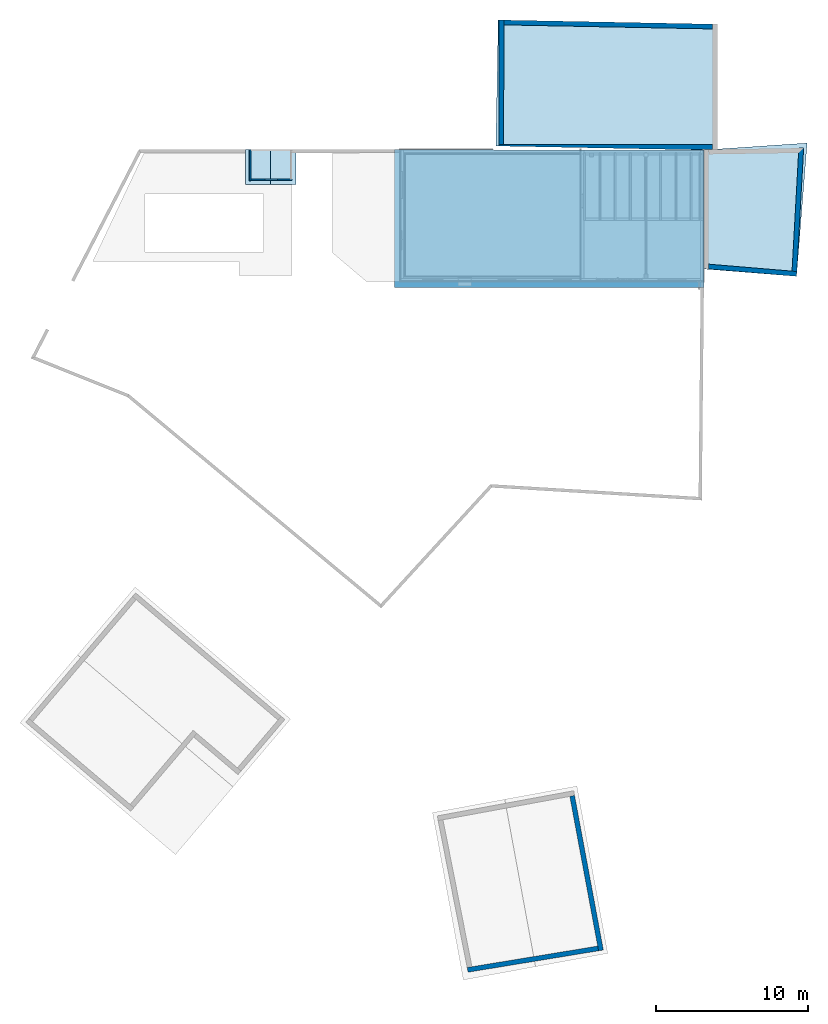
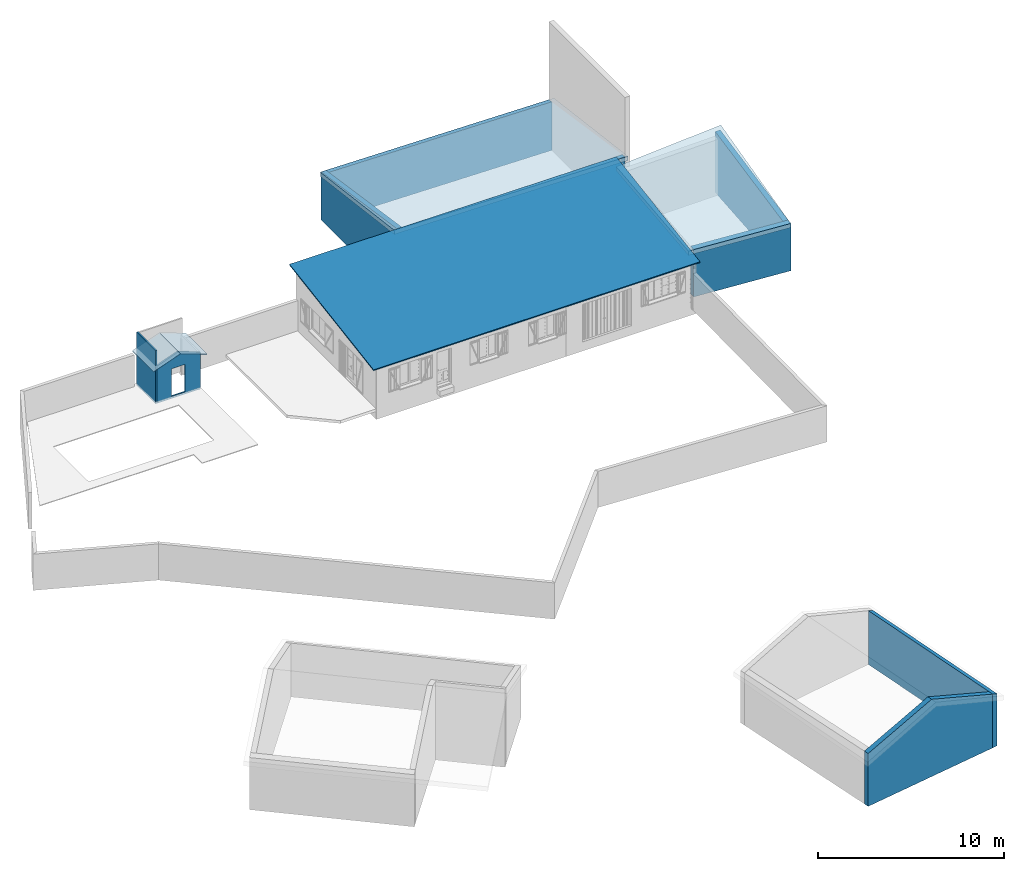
# One storey, part 2 of 12: 9 walls, 3 building element parts, 3 roofs, 1 opening, 1 element without a shape of its own.
"""IFC2X3 building model written with IfcOpenShell, lengths in metres."""

from ifc_helpers import new_model, entity, si_unit, converted_unit, derived_unit, money_unit, direction, frame, origin_with_axes, origin_2d_with_axis, place, context, subcontext, project, spatial, polyline, rectangle, outline, extrude, boolean, faceted_brep, material, type_object, element, aggregate, save


model = new_model("IFC2X3")

# Units and contexts
model_context = context("Model", 3, precision=1e-05, world=origin_with_axes(), true_north=direction((0.0, 1.0)))
body_context = subcontext(model_context, "Body", "Model", "MODEL_VIEW")
ifc_project = project(units=[si_unit("LENGTHUNIT", "METRE"), si_unit("AREAUNIT", "SQUARE_METRE"), si_unit("VOLUMEUNIT", "CUBIC_METRE"), converted_unit("PLANEANGLEUNIT", "DEGREE", entity("IfcPlaneAngleMeasure", 0.0174532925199), si_unit("PLANEANGLEUNIT", "RADIAN"), dimensions=[0, 0, 0, 0, 0, 0, 0]), si_unit("SOLIDANGLEUNIT", "STERADIAN"), money_unit("CHF"), converted_unit("TIMEUNIT", "Year", entity("IfcTimeMeasure", 31556926.0), si_unit("TIMEUNIT", "SECOND"), dimensions=[0, 0, 1, 0, 0, 0, 0]), si_unit("MASSUNIT", "GRAM", prefix="KILO"), si_unit("THERMODYNAMICTEMPERATUREUNIT", "DEGREE_CELSIUS"), si_unit("LUMINOUSINTENSITYUNIT", "LUMEN"), si_unit("ENERGYUNIT", "JOULE", prefix="MEGA"), derived_unit("THERMALCONDUCTANCEUNIT", [(si_unit("POWERUNIT", "WATT"), 1), (si_unit("LENGTHUNIT", "METRE"), -1), (si_unit("THERMODYNAMICTEMPERATUREUNIT", "KELVIN"), -1)]), derived_unit("SPECIFICHEATCAPACITYUNIT", [(si_unit("ENERGYUNIT", "JOULE"), 1), (si_unit("MASSUNIT", "GRAM", prefix="KILO"), -1), (si_unit("THERMODYNAMICTEMPERATUREUNIT", "KELVIN"), -1)]), derived_unit("MASSDENSITYUNIT", [(si_unit("MASSUNIT", "GRAM", prefix="KILO"), 1), (si_unit("VOLUMEUNIT", "CUBIC_METRE"), -1)])], contexts=[model_context])

# Site, building, storey
site_placement = place(None, origin_with_axes())
site = spatial("IfcSite", under=ifc_project, at=site_placement, Name="Site", CompositionType="ELEMENT")
building_placement = place(site_placement, origin_with_axes())
building = spatial("IfcBuilding", under=site, at=building_placement, Name="Bâtiment", CompositionType="ELEMENT")
storey_placement = place(building_placement, origin_with_axes())
storey = spatial("IfcBuildingStorey", under=building, at=storey_placement, Name="Rez-de-chaussée", CompositionType="ELEMENT", Elevation=0.0)

# Wall
ifc_material_1 = material(Name="Béton")
wall_type_1 = type_object("IfcWallType", Name="Béton 100", PredefinedType="ELEMENTEDWALL")
wall_1_placement = place(storey_placement, frame((1.6564984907, 16.4019624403, -0.13), z_axis=(0.0, 0.0, 1.0), x_axis=(1.70055091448e-08, -1.0, 0.0)))
element("IfcWall", 1, at=wall_1_placement, inside=storey, type_object=wall_type_1, material=ifc_material_1, Name="MUR_EXT-007", ObjectType="ELEMENTEDWALL", context=body_context, shape_type="CSG", body=[
    boolean("DIFFERENCE", extrude(outline(polyline([(-2.00186916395e-05, 0.0), (2.0325136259, 0.0), (2.0325136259, 0.1), (-2.0018691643e-05, 0.1), (-2.00186916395e-05, 0.0)])), origin_with_axes(), (0.0, 0.0, 1.0), 3.49290883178), faceted_brep([(2.0325136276, 0.0999999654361, 2.45409591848), (0.00123415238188, 0.099999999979, 2.45409591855), (0.00122418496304, 0.0999999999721, 2.50409591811), (0.00122418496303, 0.0999999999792, 0.0), (-2.00186916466e-05, 0.1, 0.0), (-2.00186916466e-05, 0.1, 3.49290883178), (2.0325136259, 0.1, 3.49290883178), (2.0325136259, -3.45639290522e-08, 2.41769889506), (0.00129617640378, 0.0, 2.41769889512), (0.0012862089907, 0.0, 2.46769889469), (0.0012862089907, 0.0, 0.0), (-2.00186916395e-05, 0.0, 0.0), (-2.00186916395e-05, 0.0, 3.49290883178), (2.0325136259, 0.0, 3.49290883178)], [[[0, 1, 2, 3, 4, 5, 6]], [[1, 0, 7, 8]], [[2, 1, 8, 9]], [[3, 2, 9, 10]], [[3, 10, 11, 4]], [[5, 4, 11, 12]], [[5, 12, 13, 6]], [[7, 0, 6, 13]], [[8, 7, 13, 12, 11, 10, 9]]])),
])

# Wall, opening
wall_2_placement = place(storey_placement, frame((1.65649852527, 14.3694488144, -0.13), z_axis=(0.0, 0.0, 1.0), x_axis=(1.0, 2.465396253e-08, 0.0)))
wall_2 = element("IfcWall", 2, at=wall_2_placement, inside=storey, type_object=wall_type_1, material=ifc_material_1, Name="MUR_EXT-008", ObjectType="ELEMENTEDWALL", context=body_context, shape_type="CSG", body=[
    boolean("DIFFERENCE", extrude(outline(polyline([(0.0, 0.0), (2.79201338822, 0.0), (2.79201338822, 0.1), (0.0, 0.1), (0.0, 0.0)])), origin_with_axes(), (0.0, 0.0, 1.0), 3.49290883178), faceted_brep([(0.1, -2.46539677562e-09, 2.45409593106), (1.39600669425, -3.44170967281e-08, 2.92580379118), (2.79201338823, -6.88341934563e-08, 2.41769890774), (2.79201338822, 0.0, 3.49290883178), (0.0, 0.0, 3.49290883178), (0.0, 0.0, 0.0), (0.1, -2.46539677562e-09, 0.0), (0.100000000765, 0.0999999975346, 2.45409593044), (1.39600669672, 0.0999999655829, 2.92580379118), (2.79199957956, 0.0999999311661, 2.41770393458), (2.79201338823, -6.88341934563e-08, 0.0), (2.79201338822, 0.1, 0.0), (2.79201338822, 0.1, 3.49290883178), (0.0, 0.1, 3.49290883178), (0.0, 0.1, 0.0), (0.100000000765, 0.0999999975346, 0.0), (2.79199957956, 0.0999999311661, 0.0)], [[[0, 1, 2, 3, 4, 5, 6]], [[7, 8, 1, 0]], [[2, 1, 8, 9]], [[2, 10, 11, 12, 3]], [[13, 4, 3, 12]], [[13, 14, 5, 4]], [[15, 6, 5, 14]], [[15, 7, 0, 6]], [[7, 15, 14, 13, 12, 11, 16, 9, 8]], [[10, 2, 9, 16]], [[10, 16, 11]]])),
])
opening_placement = place(wall_2_placement, frame((-1.65649887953, -14.3694487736, 0.13), z_axis=(0.0, 0.0, 1.0), x_axis=(1.0, -2.465396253e-08, 0.0)))
element("IfcOpeningElement", 3, at=opening_placement, cuts=wall_2, Name="PERCEMENT-001", ObjectType="EMPTY_OPENING", context=body_context, shape_type="SweptSolid", body=[
    extrude(rectangle(XDim=0.842299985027, YDim=1.82087696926, at=origin_2d_with_axis()), frame((3.086344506, 14.2694487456, 0.91043848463), z_axis=(2.465396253e-08, -1.0, 0.0), x_axis=(1.0, 2.465396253e-08, 0.0)), (0.0, 0.0, -1.0), 0.300000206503),
])

# Walls
ifc_material_2 = material(Name="Volume - Etude")
wall_type_2 = type_object("IfcWallType", Name="Volume - Etude 315", PredefinedType="ELEMENTEDWALL")
wall_3_placement = place(storey_placement, frame((32.3813992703, 24.6314048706, -0.13), z_axis=(0.0, 0.0, 1.0), x_axis=(-0.999813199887, 0.0193278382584, 0.0)))
element("IfcWall", 4, at=wall_3_placement, inside=storey, type_object=wall_type_2, material=ifc_material_2, Name="MUR_EXT-024", ObjectType="ELEMENTEDWALL", context=body_context, shape_type="CSG", body=[
    boolean("DIFFERENCE", extrude(outline(polyline([(-0.00562174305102, 0.0), (14.3400398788, 0.0), (14.3400398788, 0.315), (-0.00562174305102, 0.315), (-0.00562174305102, 0.0)])), origin_with_axes(), (0.0, 0.0, 1.0), 8.27830126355), faceted_brep([(14.0249941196, 0.0, 3.14345639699), (14.0249941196, 0.0, 0.0), (14.3400398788, 0.0, 0.0), (14.3400398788, 0.0, 8.27830126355), (-0.00562174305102, 0.0, 8.27830126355), (-0.00562174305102, 0.0, 0.0), (0.315050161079, 0.0, 0.0), (0.315050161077, 0.0, 3.14345639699), (14.019624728, 0.315, 3.19087049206), (14.019624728, 0.315, 0.0), (14.3400398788, 0.315, 0.0), (14.3400398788, 0.315, 8.27830126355), (-0.00562174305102, 0.315, 8.27830126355), (-0.00562174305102, 0.315, 0.0), (0.309428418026, 0.315, 0.0), (0.309428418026, 0.315, 3.19087049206)], [[[0, 1, 2, 3, 4, 5, 6, 7]], [[1, 0, 8, 9]], [[1, 9, 10, 2]], [[3, 2, 10, 11]], [[12, 4, 3, 11]], [[12, 13, 5, 4]], [[14, 6, 5, 13]], [[7, 6, 14, 15]], [[0, 7, 15, 8]], [[15, 14, 13, 12, 11, 10, 9, 8]]])),
])
wall_4_placement = place(storey_placement, frame((31.4871417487, 8.59294063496, -0.13), z_axis=(0.0, 0.0, 1.0), x_axis=(0.996521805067, -0.0833324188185, 0.0)))
element("IfcWall", 5, at=wall_4_placement, inside=storey, type_object=wall_type_2, material=ifc_material_2, Name="MUR_EXT-026", ObjectType="ELEMENTEDWALL", context=body_context, shape_type="CSG", body=[
    boolean("DIFFERENCE", extrude(outline(polyline([(-0.0263413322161, 0.0), (6.10187381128, 0.0), (6.10187381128, 0.315), (-0.0263413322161, 0.315), (-0.0263413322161, 0.0)])), origin_with_axes(), (0.0, 0.0, 1.0), 8.27830126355), faceted_brep([(0.289758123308, 0.315, 3.1627444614), (0.289758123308, 0.315, 0.0), (-0.0263413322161, 0.315, 0.0), (-0.0263413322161, 0.315, 8.27830126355), (6.10187381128, 0.315, 8.27830126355), (6.10187381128, 0.315, 0.0), (6.09301936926, 0.315, 0.0), (6.09301936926, 0.315, 3.14543045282), (0.316099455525, 0.0, 3.12923209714), (0.316099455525, 0.0, 0.0), (-0.0263413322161, 0.0, 0.0), (-0.0263413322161, 0.0, 8.27830126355), (6.10187381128, 0.0, 8.27830126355), (6.10187381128, 0.0, 3.11197026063), (6.10187381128, 0.0, 0.0)], [[[0, 1, 2, 3, 4, 5, 6, 7]], [[1, 0, 8, 9]], [[1, 9, 10, 2]], [[3, 2, 10, 11]], [[3, 11, 12, 4]], [[13, 14, 5, 4, 12]], [[14, 6, 5]], [[7, 6, 14, 13]], [[0, 7, 13, 8]], [[8, 13, 12, 11, 10, 9]]])),
])
wall_5_placement = place(storey_placement, frame((37.5677920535, 8.08445673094, -0.13), z_axis=(0.0, 0.0, 1.0), x_axis=(0.0552990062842, 0.998469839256, 0.0)))
element("IfcWall", 6, at=wall_5_placement, inside=storey, type_object=wall_type_2, material=ifc_material_2, Name="MUR_EXT-027", ObjectType="ELEMENTEDWALL", context=body_context, shape_type="CSG", body=[
    boolean("DIFFERENCE", extrude(outline(polyline([(0.0, 0.0), (8.43274966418, 0.0), (8.43274966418, 0.315), (0.0, 0.315), (0.0, 0.0)])), origin_with_axes(), (0.0, 0.0, 1.0), 8.27830126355), faceted_brep([(0.315124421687, 0.0, 0.0), (0.315124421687, 0.0, 3.14543045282), (8.43274966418, 0.0, 4.00736714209), (8.43274966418, 0.0, 8.27830126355), (0.0, 0.0, 8.27830126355), (0.0, 0.0, 0.0), (0.323978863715, 0.315, 0.0), (0.323978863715, 0.315, 3.14637062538), (8.41041364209, 0.315, 4.00499548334), (8.43274966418, 0.0, 0.0), (8.43274966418, 0.315, 0.0), (8.43274966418, 0.315, 8.27830126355), (0.0, 0.315, 8.27830126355), (0.0, 0.315, 0.0), (8.41041364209, 0.315, 0.0)], [[[0, 1, 2, 3, 4, 5]], [[1, 0, 6, 7]], [[2, 1, 7, 8]], [[2, 9, 10, 11, 3]], [[12, 4, 3, 11]], [[12, 13, 5, 4]], [[6, 0, 5, 13]], [[7, 6, 13, 12, 11, 10, 14, 8]], [[9, 2, 8, 14]], [[9, 14, 10]]])),
])
wall_6_placement = place(storey_placement, frame((22.6856077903, -26.052004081, -0.13), z_axis=(0.0, 0.0, 1.0), x_axis=(0.183208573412, -0.983074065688, 0.0)))
element("IfcWall", 7, at=wall_6_placement, inside=storey, type_object=wall_type_2, material=ifc_material_2, Name="MUR_EXT-018", ObjectType="ELEMENTEDWALL", context=body_context, shape_type="CSG", body=[
    boolean("DIFFERENCE", extrude(outline(polyline([(-0.315000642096, 0.0), (10.3180602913, 0.0), (10.3180602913, 0.315), (-0.315000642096, 0.315), (-0.315000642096, 0.0)])), origin_with_axes(), (0.0, 0.0, 1.0), 8.27830126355), faceted_brep([(10.3180602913, 0.315, 0.0), (10.3180602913, 0.315, 3.42122024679), (10.3180602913, 0.315, 8.27830126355), (10.3180602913, 0.0, 8.27830126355), (10.3180602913, 0.0, 0.0), (10.3112685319, 0.0, 0.0), (10.3112685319, 0.0, 3.53587562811), (0.000636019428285, 0.315, 3.42880246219), (0.000636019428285, 0.315, 0.0), (-0.315000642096, 0.315, 0.0), (-0.315000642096, 0.315, 8.27830126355), (-0.315000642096, 0.0, 8.27830126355), (-0.315000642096, 0.0, 0.0), (0.0, 0.0, 0.0), (0.0, 0.0, 3.54345331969)], [[[0, 1, 2, 3, 4]], [[1, 0, 5, 6]], [[7, 8, 9, 10, 2, 1]], [[10, 11, 3, 2]], [[6, 5, 4, 3, 11, 12, 13, 14]], [[5, 0, 4]], [[7, 1, 6, 14]], [[8, 7, 14, 13]], [[8, 13, 12, 9]], [[10, 9, 12, 11]]])),
])
wall_7_placement = place(storey_placement, frame((24.5169964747, -35.8790044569, -0.13), z_axis=(0.0, 0.0, 1.0), x_axis=(-0.98679490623, -0.161974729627, 0.0)))
element("IfcWall", 8, at=wall_7_placement, inside=storey, type_object=wall_type_2, material=ifc_material_2, Name="MUR_EXT-019", ObjectType="ELEMENTEDWALL", context=body_context, shape_type="CSG", body=[
    boolean("DIFFERENCE", extrude(outline(polyline([(-0.321864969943, 0.0), (8.68251793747, 0.0), (8.68251793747, 0.315), (-0.321864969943, 0.315), (-0.321864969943, 0.0)])), origin_with_axes(), (0.0, 0.0, 1.0), 8.27830126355), faceted_brep([(8.67241062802, 0.315, 3.47675125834), (4.25157249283, 0.315, 5.08549762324), (-0.00679175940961, 0.315, 3.53587562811), (-0.00679175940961, 0.315, 0.0), (-0.321864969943, 0.315, 0.0), (-0.321864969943, 0.315, 8.27830126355), (8.68251793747, 0.315, 8.27830126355), (8.68251793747, 0.315, 0.0), (8.67241062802, 0.315, 0.0), (8.68251793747, 0.0, 3.4753131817), (4.25772796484, 0.0, 5.08549762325), (0.0, 0.0, 3.53610717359), (0.0, 0.0, 0.0), (-0.321864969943, 0.0, 0.0), (-0.321864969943, 0.0, 8.27830126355), (8.68251793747, 0.0, 8.27830126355), (8.68251793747, 0.0, 0.0)], [[[0, 1, 2, 3, 4, 5, 6, 7, 8]], [[1, 0, 9, 10]], [[2, 1, 10, 11]], [[3, 2, 11, 12]], [[3, 12, 13, 4]], [[5, 4, 13, 14]], [[5, 14, 15, 6]], [[9, 16, 7, 6, 15]], [[16, 8, 7]], [[0, 8, 16, 9]], [[10, 9, 15, 14, 13, 12, 11]]])),
])
wall_8_placement = place(storey_placement, frame((18.0440403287, 24.9095367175, -0.13), z_axis=(0.0, 0.0, 1.0), x_axis=(-0.00228500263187, -0.999997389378, 0.0)))
element("IfcWall", 9, at=wall_8_placement, inside=storey, type_object=wall_type_2, material=ifc_material_2, Name="MUR_EXT-021", ObjectType="ELEMENTEDWALL", context=body_context, shape_type="CSG", body=[
    boolean("DIFFERENCE", extrude(outline(polyline([(0.0, 0.0), (8.81662508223, 0.0), (8.81662508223, 0.315), (0.0, 0.315), (0.0, 0.0)])), origin_with_axes(), (0.0, 0.0, 1.0), 8.27830126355), faceted_brep([(8.18590365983, 0.315, 5.7817216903e-08), (8.18590365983, 0.315, 4.37447326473), (0.00633926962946, 0.315, 3.14345639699), (0.00633926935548, 0.315, 2.85929097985), (0.00633926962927, 0.315, 0.0), (0.0, 0.315, 0.0), (0.0, 0.315, 8.27830126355), (8.81662508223, 0.315, 8.27830126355), (8.81662508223, 0.315, 0.0), (8.18662343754, 0.0, 6.14253671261e-08), (8.18662343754, 0.0, 4.37538967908), (0.000969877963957, 0.0, 3.14345639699), (0.000969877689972, 0.0, 2.85929097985), (0.000969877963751, 0.0, 0.0), (0.0, 0.0, 0.0), (0.0, 0.0, 8.27830126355), (8.81662508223, 0.0, 8.27830126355), (8.81662508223, 0.0, 0.0)], [[[0, 1, 2, 3, 4, 5, 6, 7, 8]], [[1, 0, 9, 10]], [[2, 1, 10, 11]], [[3, 2, 11, 12]], [[4, 3, 12, 13]], [[4, 13, 14, 5]], [[6, 5, 14, 15]], [[6, 15, 16, 7]], [[16, 17, 8, 7]], [[9, 0, 8, 17]], [[10, 9, 17, 16, 15, 14, 13, 12, 11]]])),
])
wall_9_placement = place(storey_placement, frame((18.0246140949, 16.4079346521, -0.13), z_axis=(0.0, 0.0, 1.0), x_axis=(1.0, 0.0, 0.0)))
element("IfcWall", 10, at=wall_9_placement, inside=storey, type_object=wall_type_2, material=ifc_material_2, Name="MUR_EXT-022", ObjectType="ELEMENTEDWALL", context=body_context, shape_type="CSG", body=[
    boolean("DIFFERENCE", extrude(outline(polyline([(0.0, 0.0), (14.3450479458, 0.0), (14.3450479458, 0.315), (0.0, 0.315), (0.0, 0.0)])), origin_with_axes(), (0.0, 0.0, 1.0), 8.27830126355), faceted_brep([(14.0300475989, 0.315, 4.33457493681), (0.0, 0.315, 4.37539177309), (0.0, 0.315, 8.27830126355), (14.3450479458, 0.315, 8.27830126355), (14.3450479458, 0.315, 0.0), (14.0300475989, 0.315, 0.0), (14.0295800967, 0.0, 4.381981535), (11.8231119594, 0.0, 4.3884006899), (0.0, 0.228557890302, 4.3884006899), (0.0, 0.228557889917, 4.10423527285), (0.0, 0.228557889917, 0.0), (0.0, 0.0, 0.0), (0.0, 0.0, 8.27830126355), (14.3450479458, 0.0, 8.27830126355), (14.3450479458, 0.0, 0.0), (14.0295800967, 0.0, 0.0), (11.8231119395, 0.0, 0.0), (11.8231119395, 0.0, 4.10423527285)], [[[0, 1, 2, 3, 4, 5]], [[1, 0, 6, 7, 8]], [[9, 10, 11, 12, 2, 1, 8]], [[2, 12, 13, 3]], [[13, 14, 4, 3]], [[15, 5, 4, 14]], [[0, 5, 15, 6]], [[6, 15, 14, 13, 12, 11, 16, 17, 7]], [[7, 17, 9, 8]], [[17, 16, 10, 9]], [[10, 16, 11]]])),
])

# Roofs
roof_1_placement = place(storey_placement, frame((17.9871417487, 24.9096667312, 2.72929098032), z_axis=(0.0, 0.0, 1.0), x_axis=(0.999813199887, -0.0193278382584, 0.0)))
element("IfcRoof", 11, at=roof_1_placement, inside=storey, material=ifc_material_2, Name="TOIT-004", ShapeType="NOTDEFINED", context=body_context, shape_type="SweptSolid", body=[
    extrude(outline(polyline([(0.0, 0.0), (0.0, -8.36407481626), (14.3969468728, -8.36407481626), (14.3969468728, 0.0), (0.0, 0.0)])), frame((0.0, 0.0, 0.0), z_axis=(0.0, 0.148844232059, 0.988860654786), x_axis=(1.0, 0.0, 0.0)), (0.0, -0.148844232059, 0.988860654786), 0.284165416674),
])
ifc_material_3 = material(Name="Tuile terre-cuite")
roof_2_placement = place(storey_placement, frame((3.05250521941, 15.2510121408, 2.28769890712), z_axis=(0.0, 0.0, 1.0), x_axis=(1.0, 0.0, 0.0)))
element("IfcRoof", 12, at=roof_2_placement, inside=storey, material=ifc_material_3, Name="TOIT-005", ShapeType="NOTDEFINED", context=body_context, shape_type="Brep", body=[
    faceted_brep([(-1.66600669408, -1.15156332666, -0.048271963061), (1.0777512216e-10, -1.15156332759, 0.558104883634), (1.12103215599e-10, 1.15052997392, 0.558104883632), (-1.66600669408, 1.14949662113, -0.048271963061), (-1.66600669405, -1.15156332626, -0.0982719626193), (1.12100995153e-10, -1.15156332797, 0.508104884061), (1.57876594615, 1.1515092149, -0.0165189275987), (1.66600669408, -1.15156332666, -0.048271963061), (1.66600669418, 1.1515092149, -0.0482719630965), (1.12100995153e-10, 1.15052000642, 0.508104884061), (-1.66600669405, 1.14948665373, -0.0982719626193), (1.66600669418, -1.15156332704, -0.0982719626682), (1.56269625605, 1.1515092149, -0.0606700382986), (1.12100995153e-10, 1.15053994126, 0.508104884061), (1.66600669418, 1.1515092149, -0.0982719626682)], [[[0, 1, 2, 3]], [[4, 5, 1, 0]], [[6, 2, 1, 7, 8]], [[3, 2, 9, 10]], [[10, 4, 0, 3]], [[10, 9, 5, 4]], [[7, 1, 5, 11]], [[12, 13, 2, 6]], [[11, 14, 8, 7]], [[14, 12, 6, 8]], [[13, 9, 2]], [[11, 5, 9, 13, 12, 14]]]),
])
roof_3_placement = place(storey_placement, frame((37.6189175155, 9.97696773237, 2.90033186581), z_axis=(0.0, 0.0, 1.0), x_axis=(-0.998469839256, 0.0552990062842, 0.0)))
element("IfcRoof", 13, at=roof_3_placement, inside=storey, material=ifc_material_2, Name="TOIT-003", ShapeType="NOTDEFINED", context=body_context, shape_type="SweptSolid", body=[
    extrude(outline(polyline([(-0.0536067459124, 1.90308050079), (-0.263529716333, -6.91784574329), (6.47626669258, -6.08441328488), (6.05502696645, 1.75770545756), (-0.0536067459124, 1.90308050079)])), frame((0.0, 0.0, 0.0), z_axis=(0.0, 0.105587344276, 0.994410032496), x_axis=(1.0, 0.0, 0.0)), (0.0, -0.105587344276, 0.994410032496), 0.282579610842),
])

# Roof, building element parts
roof_4_placement = place(storey_placement, frame((11.5671417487, 7.7379346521, 3.04), z_axis=(0.0, 0.0, 1.0), x_axis=(1.0, 0.0, 0.0)))
roof_4 = element("IfcRoof", 14, at=roof_4_placement, inside=storey, Name="TOIT-006", ShapeType="NOTDEFINED")
ifc_material_4 = material(Name="Etanchéité")
building_element_part_1_placement = place(roof_4_placement, origin_with_axes())
building_element_part_1 = element("IfcBuildingElementPart", 15, at=building_element_part_1_placement, material=ifc_material_4, Name="Etanchéité", context=body_context, shape_type="SweptSolid", body=[
    extrude(outline(polyline([(-0.4, -0.405087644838), (19.92, -0.405087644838), (19.92, 8.73231500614), (-0.4, 8.78027470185), (-0.4, -0.405087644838)])), frame((0.0, 0.0, 0.0), z_axis=(0.0, -0.157990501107, 0.987440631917), x_axis=(1.0, 0.0, 0.0)), (0.0, 0.157990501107, 0.987440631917), 0.0101271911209),
])
ifc_material_5 = material(Name="Bois - Liteaux")
building_element_part_2_placement = place(roof_4_placement, origin_with_axes())
building_element_part_2 = element("IfcBuildingElementPart", 16, at=building_element_part_2_placement, material=ifc_material_5, Name="Bois - Liteaux", context=body_context, shape_type="SweptSolid", body=[
    extrude(outline(polyline([(-0.4, -0.405087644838), (19.92, -0.405087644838), (19.92, 8.73231500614), (-0.4, 8.78027470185), (-0.4, -0.405087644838)])), frame((0.0, 0.0, 0.0101271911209), z_axis=(0.0, -0.157990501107, 0.987440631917), x_axis=(1.0, 0.0, 0.0)), (0.0, 0.157990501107, 0.987440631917), 0.0253179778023),
])
building_element_part_3_placement = place(roof_4_placement, origin_with_axes())
building_element_part_3 = element("IfcBuildingElementPart", 17, at=building_element_part_3_placement, material=ifc_material_3, Name="Tuile terre-cuite", context=body_context, shape_type="SweptSolid", body=[
    extrude(outline(polyline([(-0.4, -0.405087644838), (19.92, -0.405087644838), (19.92, 8.73231500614), (-0.4, 8.78027470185), (-0.4, -0.405087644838)])), frame((0.0, 0.0, 0.0354451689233), z_axis=(0.0, -0.157990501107, 0.987440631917), x_axis=(1.0, 0.0, 0.0)), (0.0, 0.157990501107, 0.987440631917), 0.0354451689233),
])
aggregate(roof_4, [building_element_part_1, building_element_part_2, building_element_part_3])

save(model, "model.ifc")
